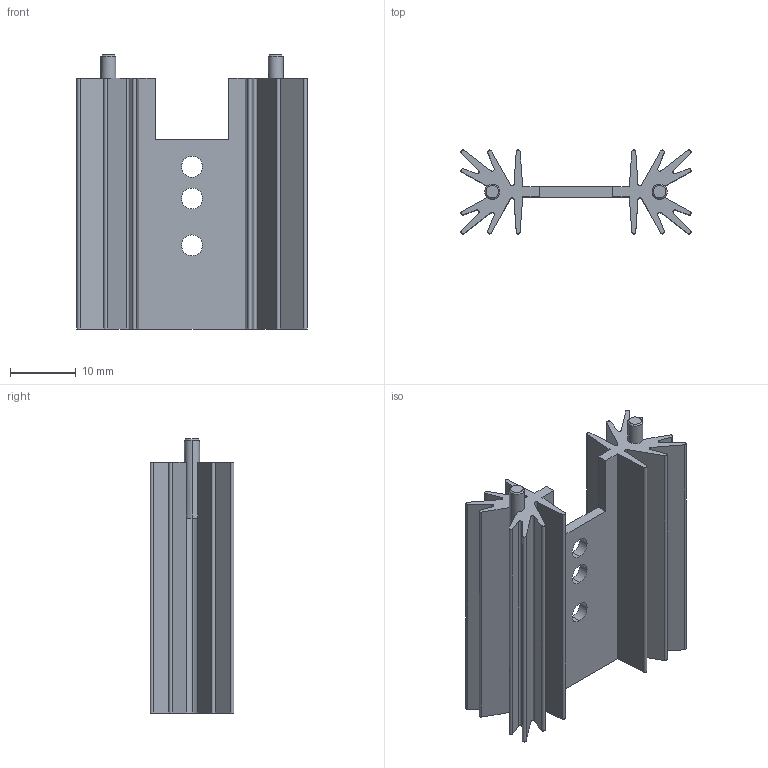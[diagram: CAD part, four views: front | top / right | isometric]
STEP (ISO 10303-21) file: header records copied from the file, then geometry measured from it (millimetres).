
FILE_DESCRIPTION (( 'STEP AP214' ), '1' );
FILE_NAME ('CUI_DEVICES_HSE-B20381-035H.step', '2019-10-25T17:18:33', ( '' ), ( '' ), 'SwSTEP 2.0', 'SolidWorks 2019', '' );
FILE_SCHEMA (( 'AUTOMOTIVE_DESIGN' ));
Length unit declared in the file: inch
Products named in the file (1): CUI_DEVICES_HSE-B20381-035H
Bounding box: 34.92 x 12.7 x 41.6 mm (x, y, z)
Volume: 4908.1 mm3; surface area: 7802.8 mm2
Topology: 1 solids, 1 shells, 99 faces, 283 edges, 186 vertices
Faces by surface type: cylinder 51, plane 44, cone 4
Entity records: 3471 total; most frequent: DIRECTION 593, CARTESIAN_POINT 569, ORIENTED_EDGE 566, EDGE_CURVE 283, AXIS2_PLACEMENT_3D 210, VERTEX_POINT 186, LINE 173, VECTOR 173
